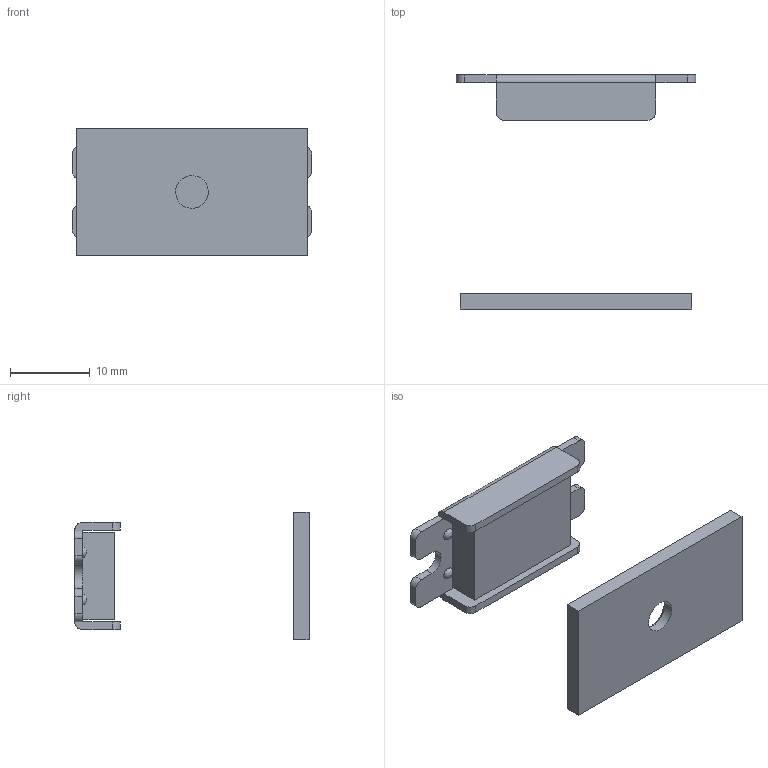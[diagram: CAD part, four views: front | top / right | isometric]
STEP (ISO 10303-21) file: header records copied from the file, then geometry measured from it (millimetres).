
FILE_DESCRIPTION((''),'2;1');
FILE_NAME('','2005-07-15T15:05:03',(''),(''),'','CADfix','');
FILE_SCHEMA(('AUTOMOTIVE_DESIGN'));
Length unit declared in the file: millimetre
Products named in the file (4): magnet; keeper; housing; TL_194_24440_36
Assembly tree (3 placements, depth 2):
  TL_194_24440_36
    magnet
    keeper
    housing
Bounding box: 30 x 29.38 x 16 mm (x, y, z)
Volume: 2180.7 mm3; surface area: 2889.1 mm2
Topology: 3 solids, 3 shells, 60 faces, 155 edges, 105 vertices
Faces by surface type: bspline 60
Entity records: 1893 total; most frequent: CARTESIAN_POINT 886, ORIENTED_EDGE 310, EDGE_CURVE 155, VERTEX_POINT 105, QUASI_UNIFORM_CURVE 102, EDGE_LOOP 66, FACE_OUTER_BOUND 60, ADVANCED_FACE 60
